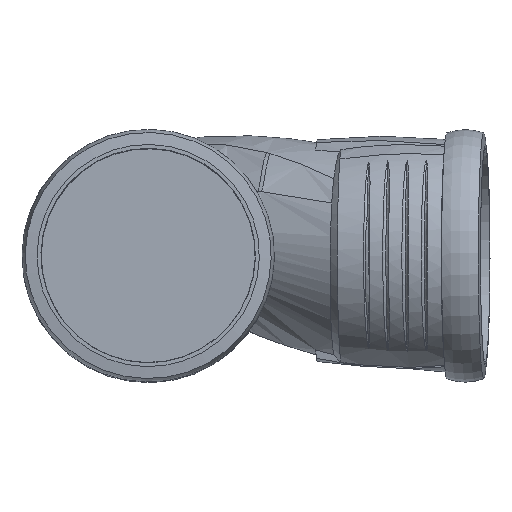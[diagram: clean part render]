
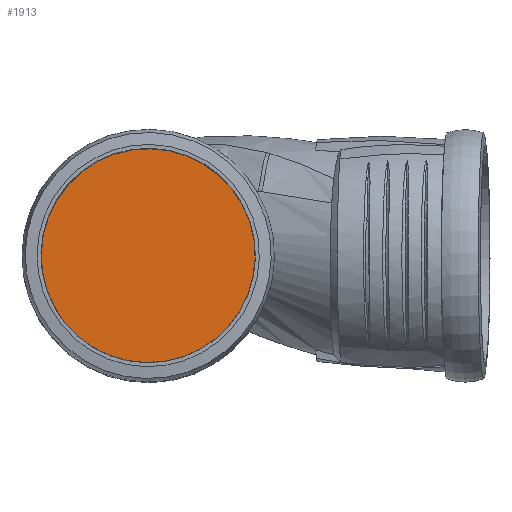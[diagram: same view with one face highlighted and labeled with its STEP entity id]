
A CAD part, top view. The second image highlights one B-rep face of the part: STEP entity #1913.
In plain terms, the highlighted planar face has unit normal (0, 0, 1).
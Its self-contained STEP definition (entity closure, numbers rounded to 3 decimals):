
#14=PLANE('',#2084);
#392=FACE_OUTER_BOUND('',#531,.T.);
#531=EDGE_LOOP('',(#1342));
#684=CIRCLE('',#2085,55.5);
#840=VERTEX_POINT('',#7555);
#1038=EDGE_CURVE('',#840,#840,#684,.T.);
#1342=ORIENTED_EDGE('',*,*,#1038,.T.);
#1913=ADVANCED_FACE('',(#392),#14,.T.);
#2084=AXIS2_PLACEMENT_3D('',#7554,#2270,#2271);
#2085=AXIS2_PLACEMENT_3D('',#7556,#2272,#2273);
#2270=DIRECTION('center_axis',(0.,0.,1.));
#2271=DIRECTION('ref_axis',(1.,0.,0.));
#2272=DIRECTION('center_axis',(0.,0.,1.));
#2273=DIRECTION('ref_axis',(-0.479,0.878,0.));
#7554=CARTESIAN_POINT('Origin',(0.,0.,55.5));
#7555=CARTESIAN_POINT('',(26.608,-48.706,55.5));
#7556=CARTESIAN_POINT('Origin',(0.,0.,55.5));
